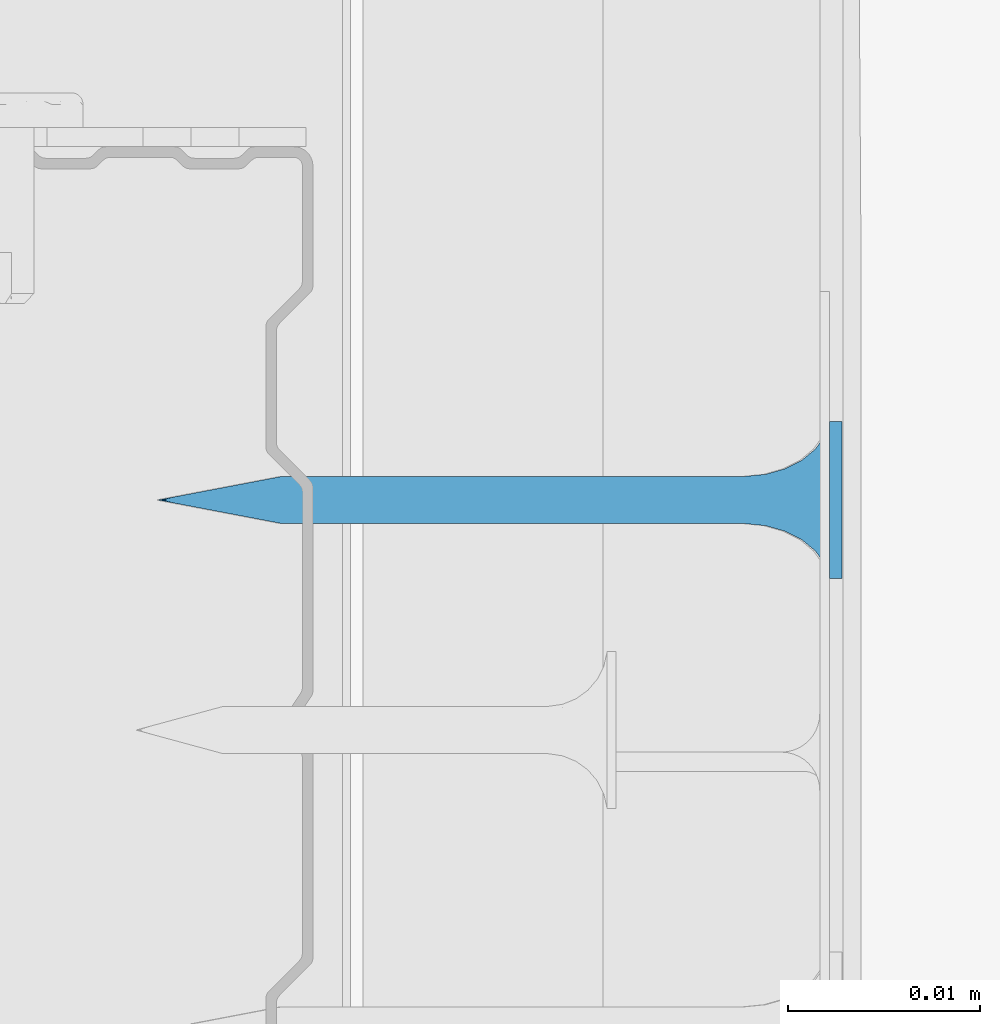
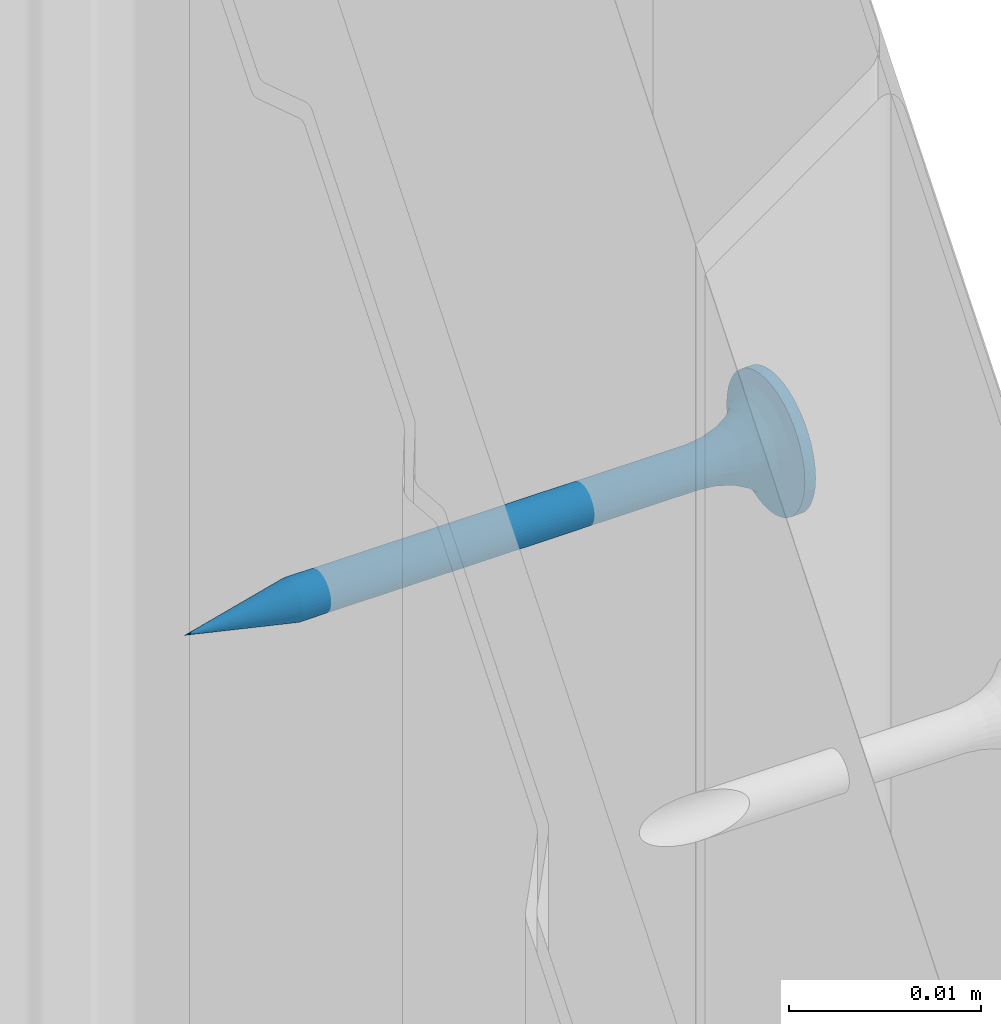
# One storey, part 18 of 62: 1 wall.
"""IFC2X3 building model written with IfcOpenShell, lengths in millimetres."""

from ifc_helpers import new_model, si_unit, frame, origin_with_axes, place, context, subcontext, project, spatial, faceted_brep, material, type_object, element, save


model = new_model("IFC2X3")

# Units and contexts
model_context = context("Model", 3, world=origin_with_axes())
body_context = subcontext(model_context, "Body", "Model", "MODEL_VIEW")
ifc_project = project(units=[si_unit("LENGTHUNIT", "METRE", prefix="MILLI"), si_unit("AREAUNIT", "SQUARE_METRE"), si_unit("VOLUMEUNIT", "CUBIC_METRE")], contexts=[model_context])

# Site, building, storey
site_placement = place(None, frame((2152.14102611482, -2015.0250894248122, 57.61556563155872), z_axis=(0.0, 0.0, 1.0), x_axis=(-1.1102230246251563e-16, 1.0, 0.0)))
site = spatial("IfcSite", under=ifc_project, at=site_placement, Name="Default Site", CompositionType="ELEMENT")
building_placement = place(site_placement, origin_with_axes())
building = spatial("IfcBuilding", under=site, at=building_placement, Name="Default Building", CompositionType="ELEMENT")
storey_placement = place(building_placement, origin_with_axes())
storey = spatial("IfcBuildingStorey", under=building, at=storey_placement, Name="Default Building Storey", CompositionType="ELEMENT", Elevation=57.61556563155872)

# Wall
ifc_material = material(Name="Default")
wall_type = type_object("IfcWallType", Name="Wkręt RIGIPS TN 35#46", PredefinedType="NOTDEFINED")
wall_placement = place(storey_placement, frame((2987.0973250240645, 6749.478129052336, 47.062110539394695), z_axis=(0.0, 0.0, 1.0), x_axis=(1.0, 0.0, 0.0)))
element("IfcWall", 1, at=wall_placement, inside=storey, type_object=wall_type, material=ifc_material, Name="Wkręt RIGIPS TN 35", context=body_context, shape_type="Brep", body=[
    faceted_brep([(-141.48753293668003, -4832.598052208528, 555.1619773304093), (-141.48753293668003, -4833.259714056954, 555.1619773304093), (-141.5377465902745, -4833.259714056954, 555.8000000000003), (-141.5377465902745, -4832.598052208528, 555.8000000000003), (-141.33812900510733, -4832.598052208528, 554.5396649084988), (-141.33812900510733, -4833.259714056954, 554.5396649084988), (-141.09321328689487, -4832.598052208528, 553.948386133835), (-141.09321328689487, -4833.259714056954, 553.948386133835), (-140.75881656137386, -4832.598052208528, 553.4027002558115), (-140.75881656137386, -4833.259714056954, 553.4027002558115), (-140.34317265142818, -4833.259714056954, 552.9160436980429), (-140.45417279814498, -4832.598052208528, 553.0314906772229), (-139.8565160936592, -4833.259714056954, 552.5003997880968), (-140.1080097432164, -4832.598052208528, 552.6986613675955), (-139.72512626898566, -4832.598052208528, 552.4088260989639), (-139.31083021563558, -4833.259714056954, 552.1660030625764), (-139.31083021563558, -4832.598052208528, 552.1660030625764), (-138.71955144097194, -4833.259714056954, 551.9210873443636), (-138.87086516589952, -4832.598052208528, 551.9735585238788), (-138.41133029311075, -4832.598052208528, 551.8341602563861), (-138.0972390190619, -4833.259714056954, 551.7716834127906), (-137.9385961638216, -4832.598052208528, 551.7497405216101), (-137.45921634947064, -4833.259714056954, 551.7214697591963), (-137.45921634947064, -4832.598052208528, 551.7214697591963), (-136.82119367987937, -4832.598052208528, 551.7716834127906), (-136.82119367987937, -4833.259714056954, 551.7716834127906), (-136.19888125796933, -4832.598052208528, 551.9210873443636), (-136.19888125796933, -4833.259714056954, 551.9210873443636), (-135.6076024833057, -4832.598052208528, 552.1660030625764), (-135.6076024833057, -4833.259714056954, 552.1660030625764), (-135.06191660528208, -4832.598052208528, 552.5003997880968), (-135.06191660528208, -4833.259714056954, 552.5003997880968), (-134.57526004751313, -4832.598052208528, 552.9160436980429), (-134.57526004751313, -4833.259714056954, 552.9160436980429), (-134.1596161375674, -4832.598052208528, 553.4027002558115), (-134.1596161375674, -4833.259714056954, 553.4027002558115), (-133.8252194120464, -4832.598052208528, 553.948386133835), (-133.8252194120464, -4833.259714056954, 553.948386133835), (-133.58030369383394, -4832.598052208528, 554.5396649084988), (-133.58030369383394, -4833.259714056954, 554.5396649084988), (-133.3806861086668, -4833.259714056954, 555.8000000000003), (-133.3806861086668, -4832.598052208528, 555.8000000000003), (-133.43089976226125, -4832.598052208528, 556.4380226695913), (-133.43089976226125, -4833.259714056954, 556.4380226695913), (-133.43089976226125, -4833.259714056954, 555.1619773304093), (-133.43089976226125, -4832.598052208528, 555.1619773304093), (-133.58030369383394, -4832.598052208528, 557.0603350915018), (-133.58030369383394, -4833.259714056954, 557.0603350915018), (-133.8252194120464, -4832.598052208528, 557.6516138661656), (-133.8252194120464, -4833.259714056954, 557.6516138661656), (-134.1596161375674, -4832.598052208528, 558.1972997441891), (-134.1596161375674, -4833.259714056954, 558.1972997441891), (-134.57526004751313, -4832.598052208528, 558.6839563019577), (-134.57526004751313, -4833.259714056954, 558.6839563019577), (-135.06191660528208, -4832.598052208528, 559.0996002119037), (-135.06191660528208, -4833.259714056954, 559.0996002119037), (-135.6076024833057, -4832.598052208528, 559.4339969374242), (-135.6076024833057, -4833.259714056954, 559.4339969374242), (-136.19888125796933, -4832.598052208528, 559.678912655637), (-136.19888125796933, -4833.259714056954, 559.678912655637), (-136.82119367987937, -4832.598052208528, 559.82831658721), (-136.82119367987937, -4833.259714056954, 559.82831658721), (-137.45921634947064, -4832.598052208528, 559.8785302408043), (-137.45921634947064, -4833.259714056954, 559.8785302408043), (-138.0972390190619, -4832.598052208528, 559.82831658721), (-138.0972390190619, -4833.259714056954, 559.82831658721), (-138.71955144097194, -4832.598052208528, 559.678912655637), (-138.71955144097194, -4833.259714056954, 559.678912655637), (-139.31083021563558, -4832.598052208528, 559.4339969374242), (-139.31083021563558, -4833.259714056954, 559.4339969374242), (-139.8565160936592, -4832.598052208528, 559.0996002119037), (-139.8565160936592, -4833.259714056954, 559.0996002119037), (-140.34317265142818, -4832.598052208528, 558.6839563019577), (-140.34317265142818, -4833.259714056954, 558.6839563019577), (-140.75881656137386, -4832.598052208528, 558.1972997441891), (-140.75881656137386, -4833.259714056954, 558.1972997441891), (-141.09321328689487, -4832.598052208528, 557.6516138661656), (-141.09321328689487, -4833.259714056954, 557.6516138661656), (-141.33812900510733, -4832.598052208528, 557.0603350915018), (-141.33812900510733, -4833.259714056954, 557.0603350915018), (-141.48753293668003, -4832.598052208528, 556.4380226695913), (-141.48753293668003, -4833.259714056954, 556.4380226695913), (-137.65172779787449, -4828.2062944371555, 554.5845305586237), (-137.45921634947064, -4828.2062944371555, 554.5693795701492), (-137.8060615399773, -4829.281368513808, 554.5055561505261), (-137.45921634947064, -4829.281368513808, 554.4598930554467), (-137.83949898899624, -4828.2062944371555, 554.6296104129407), (-138.12926982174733, -4829.281368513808, 554.6394333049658), (-138.01790634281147, -4828.2062944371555, 554.7035091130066), (-138.1825568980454, -4828.2062944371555, 554.8044072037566), (-138.40681506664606, -4829.281368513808, 554.8524012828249), (-138.3293964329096, -4828.2062944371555, 554.9298199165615), (-138.45480914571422, -4828.2062944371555, 555.0766594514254), (-138.6197830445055, -4829.281368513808, 555.1299465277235), (-138.5557072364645, -4828.2062944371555, 555.2413100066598), (-138.753660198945, -4829.281368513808, 555.4531548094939), (-138.62960593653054, -4828.2062944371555, 555.4197173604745), (-138.67468579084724, -4828.2062944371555, 555.6074885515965), (-138.79932329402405, -4829.281368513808, 555.7999999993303), (-138.68983677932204, -4828.2062944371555, 555.8000000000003), (-138.67468579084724, -4828.2062944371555, 555.9925114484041), (-138.753660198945, -4829.281368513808, 556.1468451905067), (-138.62960593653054, -4828.2062944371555, 556.1802826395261), (-138.6197830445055, -4829.281368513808, 556.4700534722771), (-138.5557072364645, -4828.2062944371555, 556.3586899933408), (-138.45480914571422, -4828.2062944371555, 556.5233405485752), (-138.40681506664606, -4829.281368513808, 556.7475987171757), (-138.3293964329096, -4828.2062944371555, 556.670180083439), (-138.1825568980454, -4828.2062944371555, 556.795592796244), (-138.12926982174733, -4829.281368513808, 556.9605666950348), (-138.01790634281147, -4828.2062944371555, 556.896490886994), (-137.8060615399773, -4829.281368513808, 557.0944438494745), (-137.83949898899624, -4828.2062944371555, 556.9703895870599), (-137.65172779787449, -4828.2062944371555, 557.0154694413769), (-137.45921634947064, -4829.281368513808, 557.1401069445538), (-137.45921634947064, -4828.2062944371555, 557.0306204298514), (-137.26670490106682, -4828.2062944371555, 557.0154694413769), (-137.11237115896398, -4829.281368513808, 557.0944438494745), (-137.07893370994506, -4828.2062944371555, 556.9703895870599), (-136.78916287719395, -4829.281368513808, 556.9605666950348), (-136.9005263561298, -4828.2062944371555, 556.896490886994), (-136.7358758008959, -4828.2062944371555, 556.795592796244), (-136.5116176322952, -4829.281368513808, 556.7475987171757), (-136.58903626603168, -4828.2062944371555, 556.670180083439), (-136.46362355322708, -4828.2062944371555, 556.5233405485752), (-136.2986496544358, -4829.281368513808, 556.4700534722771), (-136.36272546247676, -4828.2062944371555, 556.3586899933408), (-136.16477249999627, -4829.281368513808, 556.1468451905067), (-136.28882676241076, -4828.2062944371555, 556.1802826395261), (-136.24374690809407, -4828.2062944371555, 555.9925114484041), (-136.11910940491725, -4829.281368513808, 555.7999999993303), (-136.22859591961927, -4828.2062944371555, 555.8000000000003), (-136.24374690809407, -4828.2062944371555, 555.6074885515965), (-136.16477249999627, -4829.281368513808, 555.4531548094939), (-136.28882676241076, -4828.2062944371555, 555.4197173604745), (-136.2986496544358, -4829.281368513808, 555.1299465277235), (-136.36272546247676, -4828.2062944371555, 555.2413100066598), (-136.46362355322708, -4828.2062944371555, 555.0766594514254), (-136.5116176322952, -4829.281368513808, 554.8524012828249), (-136.58903626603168, -4828.2062944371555, 554.9298199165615), (-136.7358758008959, -4828.2062944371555, 554.8044072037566), (-136.78916287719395, -4829.281368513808, 554.6394333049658), (-136.9005263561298, -4828.2062944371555, 554.7035091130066), (-137.11237115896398, -4829.281368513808, 554.5055561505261), (-137.07893370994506, -4828.2062944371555, 554.6296104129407), (-137.26670490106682, -4828.2062944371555, 554.5845305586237), (-137.45921634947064, -4830.288222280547, 554.1737111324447), (-137.88013087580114, -4830.288222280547, 554.2291255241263), (-138.2723607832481, -4830.288222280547, 554.3915925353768), (-138.60917621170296, -4830.288222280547, 554.6500401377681), (-138.8676238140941, -4830.288222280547, 554.9868555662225), (-139.03009082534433, -4830.288222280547, 555.37908547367), (-139.08550521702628, -4830.288222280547, 555.7999999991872), (-139.03009082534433, -4830.288222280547, 556.2209145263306), (-138.8676238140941, -4830.288222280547, 556.6131444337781), (-138.60917621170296, -4830.288222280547, 556.9499598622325), (-138.2723607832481, -4830.288222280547, 557.2084074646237), (-137.88013087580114, -4830.288222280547, 557.3708744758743), (-137.45921634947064, -4830.288222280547, 557.4262888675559), (-137.03830182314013, -4830.288222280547, 557.3708744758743), (-136.64607191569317, -4830.288222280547, 557.2084074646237), (-136.30925648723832, -4830.288222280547, 556.9499598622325), (-136.05080888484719, -4830.288222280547, 556.6131444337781), (-135.88834187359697, -4830.288222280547, 556.2209145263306), (-135.832927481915, -4830.288222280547, 555.7999999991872), (-135.88834187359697, -4830.288222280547, 555.37908547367), (-136.05080888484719, -4830.288222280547, 554.9868555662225), (-136.30925648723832, -4830.288222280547, 554.6500401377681), (-136.64607191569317, -4830.288222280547, 554.3915925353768), (-137.03830182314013, -4830.288222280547, 554.2291255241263), (-137.45921634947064, -4831.168773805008, 553.7273430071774), (-137.99565943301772, -4831.168773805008, 553.7979670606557), (-138.49554484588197, -4831.168773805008, 554.0050264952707), (-138.92480608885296, -4831.168773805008, 554.334410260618), (-139.25418985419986, -4831.168773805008, 554.7636715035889), (-139.46124928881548, -4831.168773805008, 555.2635569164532), (-139.53187334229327, -4831.168773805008, 555.7999999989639), (-139.46124928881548, -4831.168773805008, 556.3364430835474), (-139.25418985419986, -4831.168773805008, 556.8363284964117), (-138.92480608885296, -4831.168773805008, 557.2655897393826), (-138.49554484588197, -4831.168773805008, 557.5949735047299), (-137.99565943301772, -4831.168773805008, 557.8020329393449), (-137.45921634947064, -4831.168773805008, 557.8726569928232), (-136.92277326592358, -4831.168773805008, 557.8020329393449), (-136.42288785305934, -4831.168773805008, 557.5949735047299), (-135.9936266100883, -4831.168773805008, 557.2655897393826), (-135.6642428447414, -4831.168773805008, 556.8363284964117), (-135.45718341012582, -4831.168773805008, 556.3364430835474), (-135.386559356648, -4831.168773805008, 555.7999999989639), (-135.45718341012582, -4831.168773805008, 555.2635569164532), (-135.6642428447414, -4831.168773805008, 554.7636715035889), (-135.9936266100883, -4831.168773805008, 554.334410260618), (-136.42288785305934, -4831.168773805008, 554.0050264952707), (-136.92277326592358, -4831.168773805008, 553.7979670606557), (-137.45921634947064, -4831.872222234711, 553.1465392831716), (-138.14598252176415, -4831.872222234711, 553.2369539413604), (-138.78594670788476, -4831.872222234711, 553.5020355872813), (-139.33549641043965, -4831.872222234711, 553.923719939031), (-139.75718076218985, -4831.872222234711, 554.473269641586), (-140.02226240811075, -4831.872222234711, 555.1132338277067), (-140.11267706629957, -4831.872222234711, 555.7999999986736), (-140.02226240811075, -4831.872222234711, 556.4867661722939), (-139.75718076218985, -4831.872222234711, 557.1267303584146), (-139.33549641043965, -4831.872222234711, 557.6762800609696), (-138.78594670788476, -4831.872222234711, 558.0979644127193), (-138.14598252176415, -4831.872222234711, 558.3630460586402), (-137.45921634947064, -4831.872222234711, 558.453460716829), (-136.77245017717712, -4831.872222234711, 558.3630460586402), (-136.13248599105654, -4831.872222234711, 558.0979644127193), (-135.58293628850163, -4831.872222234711, 557.6762800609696), (-135.16125193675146, -4831.872222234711, 557.1267303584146), (-134.89617029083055, -4831.872222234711, 556.4867661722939), (-134.8057556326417, -4831.872222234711, 555.7999999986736), (-134.89617029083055, -4831.872222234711, 555.1132338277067), (-135.16125193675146, -4831.872222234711, 554.473269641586), (-135.58293628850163, -4831.872222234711, 553.923719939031), (-136.13248599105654, -4831.872222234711, 553.5020355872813), (-136.77245017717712, -4831.872222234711, 553.2369539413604), (-137.45921634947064, -4832.357990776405, 552.4648055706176), (-138.3224281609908, -4832.357990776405, 552.5784495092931), (-139.12681356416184, -4832.357990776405, 552.9116369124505), (-139.8175549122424, -4832.357990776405, 553.4416614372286), (-140.34757943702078, -4832.357990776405, 554.132402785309), (-140.680766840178, -4832.357990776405, 554.9367881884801), (-140.79441077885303, -4832.357990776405, 555.7999999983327), (-140.680766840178, -4832.357990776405, 556.6632118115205), (-140.34757943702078, -4832.357990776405, 557.4675972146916), (-139.8175549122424, -4832.357990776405, 558.158338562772), (-139.12681356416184, -4832.357990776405, 558.6883630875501), (-138.3224281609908, -4832.357990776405, 559.0215504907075), (-137.45921634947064, -4832.357990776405, 559.135194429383), (-136.5960045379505, -4832.357990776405, 559.0215504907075), (-135.79161913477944, -4832.357990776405, 558.6883630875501), (-135.10087778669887, -4832.357990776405, 558.158338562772), (-134.5708532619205, -4832.357990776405, 557.4675972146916), (-134.23766585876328, -4832.357990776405, 556.6632118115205), (-134.12402192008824, -4832.357990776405, 555.7999999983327), (-134.23766585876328, -4832.357990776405, 554.9367881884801), (-134.5708532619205, -4832.357990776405, 554.132402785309), (-135.10087778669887, -4832.357990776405, 553.4416614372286), (-135.79161913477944, -4832.357990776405, 552.9116369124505), (-136.5960045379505, -4832.357990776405, 552.5784495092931), (-138.67468579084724, -4804.093757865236, 555.6074885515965), (-138.68983677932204, -4804.093757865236, 555.8000000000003), (-138.62960593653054, -4804.093757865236, 555.4197173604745), (-138.5557072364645, -4804.093757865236, 555.2413100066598), (-138.45480914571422, -4804.093757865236, 555.0766594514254), (-138.3293964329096, -4804.093757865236, 554.9298199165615), (-138.1825568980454, -4804.093757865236, 554.8044072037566), (-138.01790634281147, -4804.093757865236, 554.7035091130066), (-137.83949898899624, -4804.093757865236, 554.6296104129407), (-137.65172779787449, -4804.093757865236, 554.5845305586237), (-137.45921634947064, -4804.093757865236, 554.5693795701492), (-137.26670490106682, -4804.093757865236, 554.5845305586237), (-137.07893370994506, -4804.093757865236, 554.6296104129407), (-136.9005263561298, -4804.093757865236, 554.7035091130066), (-136.7358758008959, -4804.093757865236, 554.8044072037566), (-136.58903626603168, -4804.093757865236, 554.9298199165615), (-136.46362355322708, -4804.093757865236, 555.0766594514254), (-136.36272546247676, -4804.093757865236, 555.2413100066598), (-136.28882676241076, -4804.093757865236, 555.4197173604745), (-136.22859591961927, -4804.093757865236, 555.8000000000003), (-136.24374690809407, -4804.093757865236, 555.9925114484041), (-136.24374690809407, -4804.093757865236, 555.6074885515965), (-136.28882676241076, -4804.093757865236, 556.1802826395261), (-136.36272546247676, -4804.093757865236, 556.3586899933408), (-136.46362355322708, -4804.093757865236, 556.5233405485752), (-136.58903626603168, -4804.093757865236, 556.670180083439), (-136.7358758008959, -4804.093757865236, 556.795592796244), (-136.9005263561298, -4804.093757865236, 556.896490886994), (-137.07893370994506, -4804.093757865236, 556.9703895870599), (-137.26670490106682, -4804.093757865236, 557.0154694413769), (-137.45921634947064, -4804.093757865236, 557.0306204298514), (-137.65172779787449, -4804.093757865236, 557.0154694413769), (-137.83949898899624, -4804.093757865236, 556.9703895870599), (-138.01790634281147, -4804.093757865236, 556.896490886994), (-138.1825568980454, -4804.093757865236, 556.795592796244), (-138.3293964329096, -4804.093757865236, 556.670180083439), (-138.45480914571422, -4804.093757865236, 556.5233405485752), (-138.5557072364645, -4804.093757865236, 556.3586899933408), (-138.62960593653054, -4804.093757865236, 556.1802826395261), (-138.67468579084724, -4804.093757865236, 555.9925114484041), (-137.45921634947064, -4797.627062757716, 555.8000000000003), (-139.95921629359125, -4833.259714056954, 555.2999999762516), (-139.95921629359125, -4833.259714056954, 556.300000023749), (-137.95921637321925, -4833.259714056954, 556.300000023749), (-137.95921637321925, -4833.259714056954, 558.2999999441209), (-136.95921632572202, -4833.259714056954, 558.2999999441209), (-136.95921632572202, -4833.259714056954, 556.300000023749), (-134.95921640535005, -4833.259714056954, 556.300000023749), (-134.95921640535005, -4833.259714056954, 555.2999999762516), (-136.95921632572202, -4833.259714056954, 555.2999999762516), (-136.95921632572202, -4833.259714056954, 553.3000000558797), (-137.95921637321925, -4833.259714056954, 553.3000000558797), (-137.95921637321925, -4833.259714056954, 555.2999999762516), (-136.95921632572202, -4832.888378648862, 558.2999999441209), (-137.95921637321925, -4832.888378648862, 558.2999999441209), (-137.95921637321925, -4832.888378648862, 556.300000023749), (-139.95921629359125, -4832.888378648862, 556.300000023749), (-139.95921629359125, -4832.888378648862, 555.2999999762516), (-137.95921637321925, -4832.888378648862, 555.2999999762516), (-137.95921637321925, -4832.888378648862, 553.3000000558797), (-136.95921632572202, -4832.888378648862, 553.3000000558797), (-136.95921632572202, -4832.888378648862, 555.2999999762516), (-134.95921640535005, -4832.888378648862, 555.2999999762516), (-134.95921640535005, -4832.888378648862, 556.300000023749), (-136.95921632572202, -4832.888378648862, 556.300000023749)], [[[0, 1, 2, 3]], [[1, 0, 4, 5]], [[5, 4, 6, 7]], [[8, 9, 7, 6]], [[8, 10, 9]], [[8, 11, 10]], [[12, 11, 13]], [[12, 10, 11]], [[13, 14, 12]], [[14, 15, 12]], [[14, 16, 15]], [[17, 16, 18]], [[17, 15, 16]], [[18, 19, 17]], [[20, 19, 21]], [[20, 17, 19]], [[21, 22, 20]], [[21, 23, 22]], [[24, 25, 22, 23]], [[25, 24, 26, 27]], [[27, 26, 28, 29]], [[30, 31, 29, 28]], [[31, 30, 32, 33]], [[34, 35, 33, 32]], [[35, 34, 36, 37]], [[37, 36, 38, 39]], [[40, 41, 42, 43]], [[44, 45, 41, 40]], [[45, 44, 39, 38]], [[43, 42, 46, 47]], [[47, 46, 48, 49]], [[50, 51, 49, 48]], [[51, 50, 52, 53]], [[54, 55, 53, 52]], [[55, 54, 56, 57]], [[57, 56, 58, 59]], [[60, 61, 59, 58]], [[61, 60, 62, 63]], [[64, 65, 63, 62]], [[65, 64, 66, 67]], [[67, 66, 68, 69]], [[70, 71, 69, 68]], [[71, 70, 72, 73]], [[74, 75, 73, 72]], [[75, 74, 76, 77]], [[77, 76, 78, 79]], [[80, 81, 79, 78]], [[81, 80, 3, 2]], [[82, 83, 84]], [[83, 85, 84]], [[84, 86, 82]], [[84, 87, 88, 86]], [[89, 88, 87]], [[87, 90, 89]], [[90, 91, 89]], [[92, 91, 93]], [[91, 90, 93]], [[93, 94, 92]], [[93, 95, 96, 94]], [[97, 96, 95]], [[95, 98, 97]], [[98, 99, 97]], [[100, 99, 101]], [[99, 98, 101]], [[101, 102, 100]], [[101, 103, 104, 102]], [[105, 104, 103]], [[103, 106, 105]], [[106, 107, 105]], [[108, 107, 109]], [[107, 106, 109]], [[109, 110, 108]], [[109, 111, 112, 110]], [[113, 112, 111]], [[111, 114, 113]], [[114, 115, 113]], [[116, 115, 117]], [[115, 114, 117]], [[117, 118, 116]], [[117, 119, 120, 118]], [[121, 120, 119]], [[119, 122, 121]], [[122, 123, 121]], [[124, 123, 125]], [[123, 122, 125]], [[125, 126, 124]], [[125, 127, 128, 126]], [[129, 128, 127]], [[127, 130, 129]], [[130, 131, 129]], [[132, 131, 133]], [[131, 130, 133]], [[133, 134, 132]], [[133, 135, 136, 134]], [[137, 136, 135]], [[135, 138, 137]], [[138, 139, 137]], [[140, 139, 141]], [[139, 138, 141]], [[141, 142, 140]], [[141, 143, 144, 142]], [[145, 144, 143]], [[143, 85, 145]], [[85, 83, 145]], [[146, 147, 84, 85]], [[84, 147, 148, 87]], [[87, 148, 149, 90]], [[90, 149, 150, 93]], [[93, 150, 151, 95]], [[95, 151, 152, 98]], [[98, 152, 153, 101]], [[101, 153, 154, 103]], [[103, 154, 155, 106]], [[106, 155, 156, 109]], [[109, 156, 157, 111]], [[111, 157, 158, 114]], [[114, 158, 159, 117]], [[117, 159, 160, 119]], [[119, 160, 161, 122]], [[122, 161, 162, 125]], [[125, 162, 163, 127]], [[127, 163, 164, 130]], [[130, 164, 165, 133]], [[133, 165, 166, 135]], [[135, 166, 167, 138]], [[138, 167, 168, 141]], [[141, 168, 169, 143]], [[143, 169, 146, 85]], [[170, 171, 147, 146]], [[147, 171, 172, 148]], [[148, 172, 173, 149]], [[149, 173, 174, 150]], [[150, 174, 175, 151]], [[151, 175, 176, 152]], [[152, 176, 177, 153]], [[153, 177, 178, 154]], [[154, 178, 179, 155]], [[155, 179, 180, 156]], [[156, 180, 181, 157]], [[157, 181, 182, 158]], [[158, 182, 183, 159]], [[159, 183, 184, 160]], [[160, 184, 185, 161]], [[161, 185, 186, 162]], [[162, 186, 187, 163]], [[163, 187, 188, 164]], [[164, 188, 189, 165]], [[165, 189, 190, 166]], [[166, 190, 191, 167]], [[167, 191, 192, 168]], [[168, 192, 193, 169]], [[169, 193, 170, 146]], [[194, 195, 171, 170]], [[171, 195, 196, 172]], [[172, 196, 197, 173]], [[173, 197, 198, 174]], [[174, 198, 199, 175]], [[175, 199, 200, 176]], [[176, 200, 201, 177]], [[177, 201, 202, 178]], [[178, 202, 203, 179]], [[179, 203, 204, 180]], [[180, 204, 205, 181]], [[181, 205, 206, 182]], [[182, 206, 207, 183]], [[183, 207, 208, 184]], [[184, 208, 209, 185]], [[185, 209, 210, 186]], [[186, 210, 211, 187]], [[187, 211, 212, 188]], [[188, 212, 213, 189]], [[189, 213, 214, 190]], [[190, 214, 215, 191]], [[191, 215, 216, 192]], [[192, 216, 217, 193]], [[193, 217, 194, 170]], [[21, 19, 218]], [[19, 219, 218]], [[218, 23, 21]], [[218, 219, 195, 194]], [[18, 16, 219]], [[16, 220, 219]], [[219, 19, 18]], [[195, 219, 220, 196]], [[13, 11, 221]], [[14, 13, 220]], [[13, 221, 220]], [[220, 16, 14]], [[196, 220, 221, 197]], [[8, 6, 222]], [[222, 221, 8]], [[221, 11, 8]], [[197, 221, 222, 198]], [[4, 223, 222, 6]], [[198, 222, 223, 199]], [[0, 3, 223]], [[3, 224, 223]], [[223, 4, 0]], [[199, 223, 224, 200]], [[80, 78, 225]], [[225, 224, 80]], [[224, 3, 80]], [[200, 224, 225, 201]], [[78, 76, 226, 225]], [[201, 225, 226, 202]], [[74, 72, 226]], [[72, 227, 226]], [[226, 76, 74]], [[202, 226, 227, 203]], [[70, 68, 228]], [[228, 227, 70]], [[227, 72, 70]], [[203, 227, 228, 204]], [[68, 66, 229, 228]], [[204, 228, 229, 205]], [[64, 62, 229]], [[62, 230, 229]], [[229, 66, 64]], [[205, 229, 230, 206]], [[60, 58, 231]], [[231, 230, 60]], [[230, 62, 60]], [[206, 230, 231, 207]], [[58, 56, 232, 231]], [[207, 231, 232, 208]], [[54, 52, 232]], [[52, 233, 232]], [[232, 56, 54]], [[208, 232, 233, 209]], [[50, 48, 234]], [[234, 233, 50]], [[233, 52, 50]], [[209, 233, 234, 210]], [[48, 46, 235, 234]], [[210, 234, 235, 211]], [[42, 41, 235]], [[41, 236, 235]], [[235, 46, 42]], [[211, 235, 236, 212]], [[45, 38, 237]], [[237, 236, 45]], [[236, 41, 45]], [[212, 236, 237, 213]], [[36, 238, 237, 38]], [[213, 237, 238, 214]], [[34, 32, 238]], [[32, 239, 238]], [[238, 36, 34]], [[214, 238, 239, 215]], [[30, 28, 240]], [[240, 239, 30]], [[239, 32, 30]], [[215, 239, 240, 216]], [[26, 241, 240, 28]], [[216, 240, 241, 217]], [[217, 241, 218, 194]], [[24, 23, 241]], [[23, 218, 241]], [[241, 26, 24]], [[242, 97, 99, 243]], [[97, 242, 244, 96]], [[96, 244, 245, 94]], [[246, 92, 94, 245]], [[92, 246, 247, 91]], [[248, 89, 91, 247]], [[89, 248, 249, 88]], [[88, 249, 250, 86]], [[251, 82, 86, 250]], [[82, 251, 252, 83]], [[253, 145, 83, 252]], [[145, 253, 254, 144]], [[144, 254, 255, 142]], [[256, 140, 142, 255]], [[140, 256, 257, 139]], [[258, 137, 139, 257]], [[137, 258, 259, 136]], [[136, 259, 260, 134]], [[131, 261, 262, 129]], [[132, 263, 261, 131]], [[263, 132, 134, 260]], [[129, 262, 264, 128]], [[128, 264, 265, 126]], [[266, 124, 126, 265]], [[124, 266, 267, 123]], [[268, 121, 123, 267]], [[121, 268, 269, 120]], [[120, 269, 270, 118]], [[271, 116, 118, 270]], [[116, 271, 272, 115]], [[273, 113, 115, 272]], [[113, 273, 274, 112]], [[112, 274, 275, 110]], [[276, 108, 110, 275]], [[108, 276, 277, 107]], [[278, 105, 107, 277]], [[105, 278, 279, 104]], [[104, 279, 280, 102]], [[281, 100, 102, 280]], [[100, 281, 243, 99]], [[282, 244, 242]], [[242, 243, 282]], [[282, 245, 244]], [[282, 247, 246]], [[246, 245, 282]], [[282, 249, 248]], [[248, 247, 282]], [[282, 250, 249]], [[282, 252, 251]], [[251, 250, 282]], [[282, 254, 253]], [[253, 252, 282]], [[282, 255, 254]], [[282, 257, 256]], [[256, 255, 282]], [[282, 259, 258]], [[258, 257, 282]], [[282, 260, 259]], [[282, 261, 263]], [[263, 260, 282]], [[282, 264, 262]], [[262, 261, 282]], [[282, 265, 264]], [[282, 267, 266]], [[266, 265, 282]], [[282, 269, 268]], [[268, 267, 282]], [[282, 270, 269]], [[282, 272, 271]], [[271, 270, 282]], [[282, 274, 273]], [[273, 272, 282]], [[282, 275, 274]], [[282, 277, 276]], [[276, 275, 282]], [[282, 279, 278]], [[278, 277, 282]], [[282, 280, 279]], [[282, 243, 281]], [[281, 280, 282]], [[75, 77, 79, 81, 2, 1, 5, 7, 9, 10, 12, 15, 17, 20, 22, 25, 27, 29, 31, 33, 35, 37, 39, 44, 40, 43, 47, 49, 51, 53, 55, 57, 59, 61, 63, 65, 67, 69, 71, 73], [283, 284, 285, 286, 287, 288, 289, 290, 291, 292, 293, 294]], [[295, 296, 297, 298, 299, 300, 301, 302, 303, 304, 305, 306]], [[303, 291, 290, 304]], [[304, 290, 289, 305]], [[305, 289, 288, 306]], [[306, 288, 287, 295]], [[295, 287, 286, 296]], [[296, 286, 285, 297]], [[297, 285, 284, 298]], [[298, 284, 283, 299]], [[299, 283, 294, 300]], [[300, 294, 293, 301]], [[301, 293, 292, 302]], [[302, 292, 291, 303]]]),
])

save(model, "model.ifc")
